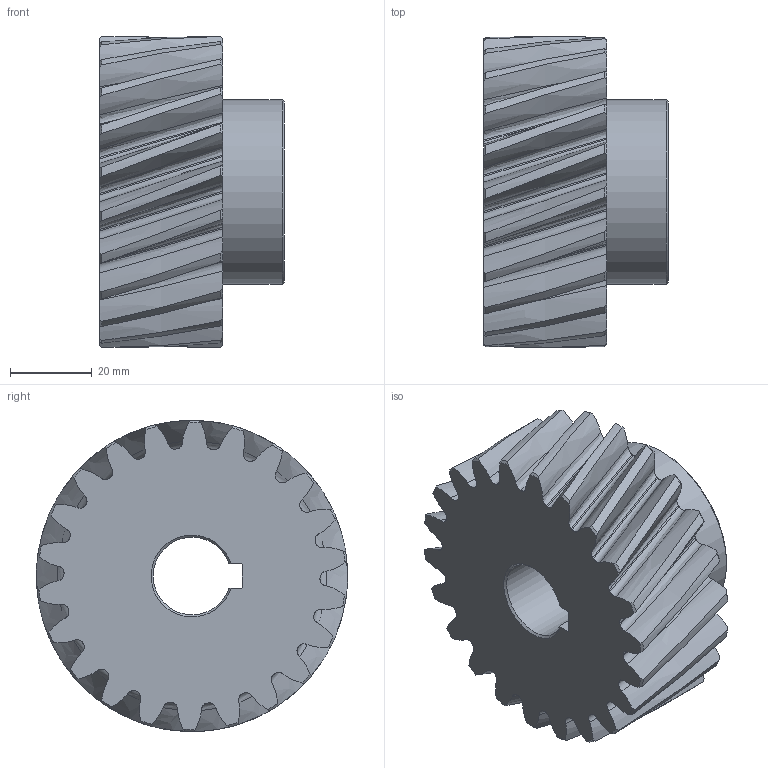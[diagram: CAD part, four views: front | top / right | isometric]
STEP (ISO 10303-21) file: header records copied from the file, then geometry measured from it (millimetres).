
FILE_DESCRIPTION(('STEP AP214'), '1');
FILE_NAME('GH3-T22D19 - Øåñòåðíÿ', '2018-02-16T11:39:57', (''), (''), 'ASCON STEP Converter 1.3', 'ASCON Math Kernel', '');
FILE_SCHEMA(('AUTOMOTIVE_DESIGN { 1 0 10303 214 3 1 1}'));
Length unit declared in the file: millimetre
Products named in the file (1): GH3-T22D19
Bounding box: 45 x 76.01 x 76.03 mm (x, y, z)
Volume: 124435.8 mm3; surface area: 24828.3 mm2
Topology: 1 solids, 1 shells, 189 faces, 558 edges, 373 vertices
Faces by surface type: bspline 88, cylinder 48, cone 47, plane 6
Full cylindrical faces by diameter (mm): 45 x1
Entity records: 13513 total; most frequent: CARTESIAN_POINT 7744, ORIENTED_EDGE 1110, EDGE_CURVE 555, DIRECTION 502, B_SPLINE_CURVE_WITH_KNOTS 401, VERTEX_POINT 371, AXIS2_PLACEMENT_3D 245, EDGE_LOOP 194
